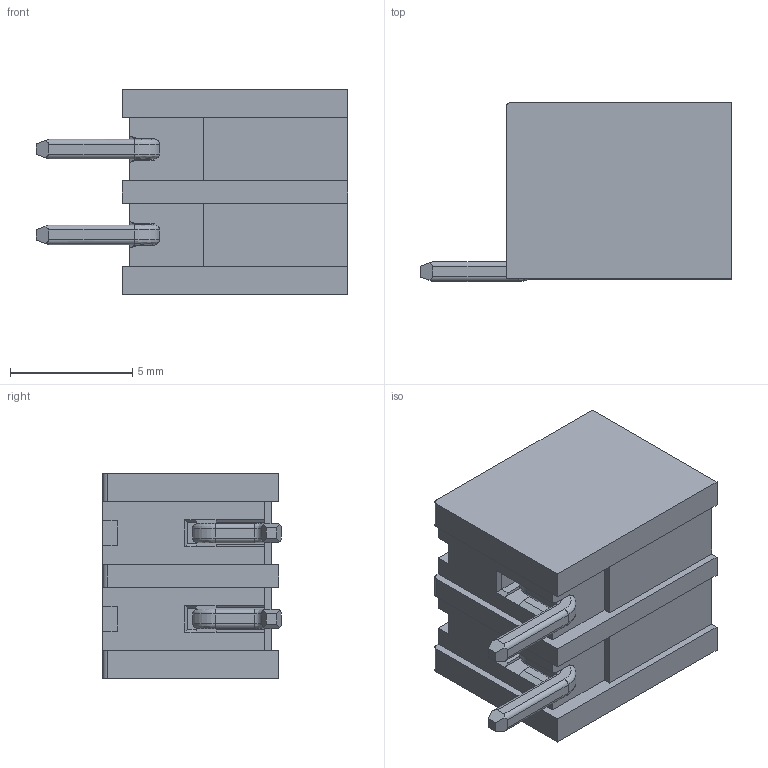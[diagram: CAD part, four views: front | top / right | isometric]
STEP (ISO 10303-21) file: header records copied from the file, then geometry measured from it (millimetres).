
FILE_DESCRIPTION (( 'STEP AP214' ), '1' );
FILE_NAME ('110-M-211-SMD-02.STEP', '2016-12-05T15:43:06', ( '' ), ( '' ), 'SwSTEP 2.0', 'SolidWorks 2016', '' );
FILE_SCHEMA (( 'AUTOMOTIVE_DESIGN' ));
Length unit declared in the file: millimetre
Products named in the file (1): 110-M-211-SMD-02
Bounding box: 12.7 x 7.3 x 8.4 mm (x, y, z)
Volume: 301.9 mm3; surface area: 781.1 mm2
Topology: 1 solids, 1 shells, 267 faces, 705 edges, 442 vertices
Faces by surface type: plane 182, cylinder 57, cone 12, bspline 12, torus 4
Entity records: 8639 total; most frequent: CARTESIAN_POINT 2339, ORIENTED_EDGE 1410, DIRECTION 1141, EDGE_CURVE 705, LINE 469, VECTOR 469, VERTEX_POINT 442, AXIS2_PLACEMENT_3D 336
